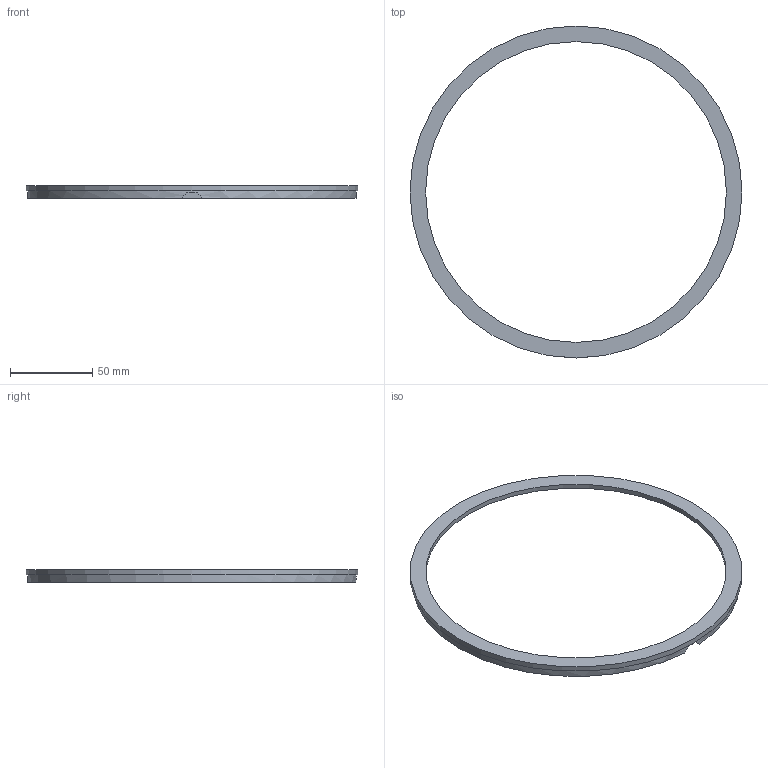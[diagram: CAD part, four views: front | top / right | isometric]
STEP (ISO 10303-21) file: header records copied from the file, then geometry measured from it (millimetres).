
FILE_DESCRIPTION(/* description */ (''),/* implementation_level */ '2;1');
FILE_NAME(/* name */ 'Front Panel Step.step',/* time_stamp */ '2024-09-09T17:31:28+02:00',/* author */ (''),/* organization */ (''),/* preprocessor_version */ 'ST-DEVELOPER v20',/* originating_system */ 'Autodesk Translation Framework v13.14.0.145',/* authorisation */ '');
FILE_SCHEMA (('AUTOMOTIVE_DESIGN { 1 0 10303 214 3 1 1 }'));
Length unit declared in the file: millimetre
Products named in the file (3): Cristal lamp (v21~recovered); Round Base; Pokrywa
Assembly tree (2 placements, depth 3):
  Cristal lamp (v21~recovered)
    Round Base
      Pokrywa
Bounding box: 202 x 202 x 7.9 mm (x, y, z)
Volume: 19411.3 mm3; surface area: 23400.1 mm2
Topology: 1 solids, 1 shells, 15 faces, 30 edges, 20 vertices
Faces by surface type: plane 9, cylinder 6
Full cylindrical faces by diameter (mm): 183 x1, 185 x1, 188.2 x1, 197.9 x1, 199.9 x1, 202 x1
Entity records: 481 total; most frequent: DIRECTION 90, CARTESIAN_POINT 70, ORIENTED_EDGE 60, AXIS2_PLACEMENT_3D 40, EDGE_CURVE 30, EDGE_LOOP 20, VERTEX_POINT 20, CIRCLE 16
